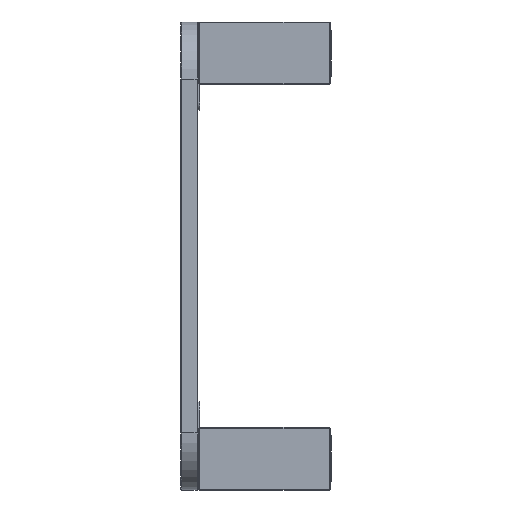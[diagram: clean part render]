
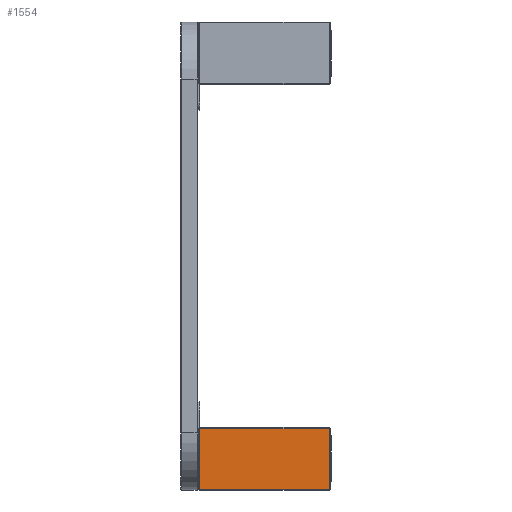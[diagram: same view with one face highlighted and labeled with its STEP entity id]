
A CAD part, left-side view. The second image highlights one B-rep face of the part: STEP entity #1554.
In plain terms, the highlighted planar face has unit normal (-1, 0, 0) as drawn and (0, 0, -1) by its records, which use the part's own axes.
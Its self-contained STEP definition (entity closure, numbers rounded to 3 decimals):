
#144 = LINE ( 'NONE', #5421, #2594 ) ;
#166 = DIRECTION ( 'NONE',  ( 1., 0., 0. ) ) ;
#173 = VERTEX_POINT ( 'NONE', #2601 ) ;
#224 = DIRECTION ( 'NONE',  ( 0., 1., 0. ) ) ;
#232 = EDGE_CURVE ( 'NONE', #3387, #3724, #371, .T. ) ;
#371 = LINE ( 'NONE', #832, #4705 ) ;
#429 = VERTEX_POINT ( 'NONE', #1470 ) ;
#557 = LINE ( 'NONE', #1939, #4809 ) ;
#645 = ORIENTED_EDGE ( 'NONE', *, *, #232, .T. ) ;
#647 = CARTESIAN_POINT ( 'NONE',  ( -55., 230., -55. ) ) ;
#666 = DIRECTION ( 'NONE',  ( -1., 0., 0. ) ) ;
#832 = CARTESIAN_POINT ( 'NONE',  ( 53.5, 230., -55. ) ) ;
#847 = CARTESIAN_POINT ( 'NONE',  ( 53.5, 1.5, -55. ) ) ;
#1079 = DIRECTION ( 'NONE',  ( 0., 0., 1. ) ) ;
#1419 = FACE_OUTER_BOUND ( 'NONE', #1953, .T. ) ;
#1470 = CARTESIAN_POINT ( 'NONE',  ( -53.5, 1.5, -55. ) ) ;
#1554 = ADVANCED_FACE ( 'NONE', ( #1419 ), #1937, .F. ) ;
#1593 = VECTOR ( 'NONE', #666, 1000. ) ;
#1822 = CARTESIAN_POINT ( 'NONE',  ( 53.5, 228.5, -55. ) ) ;
#1933 = CARTESIAN_POINT ( 'NONE',  ( -55., 1.5, -55. ) ) ;
#1937 = PLANE ( 'NONE',  #2477 ) ;
#1939 = CARTESIAN_POINT ( 'NONE',  ( -55., 228.5, -55. ) ) ;
#1953 = EDGE_LOOP ( 'NONE', ( #3028, #645, #2423, #2546 ) ) ;
#2423 = ORIENTED_EDGE ( 'NONE', *, *, #5569, .T. ) ;
#2477 = AXIS2_PLACEMENT_3D ( 'NONE', #647, #1079, #5385 ) ;
#2546 = ORIENTED_EDGE ( 'NONE', *, *, #3074, .T. ) ;
#2594 = VECTOR ( 'NONE', #224, 1000. ) ;
#2601 = CARTESIAN_POINT ( 'NONE',  ( -53.5, 228.5, -55. ) ) ;
#3028 = ORIENTED_EDGE ( 'NONE', *, *, #3335, .T. ) ;
#3074 = EDGE_CURVE ( 'NONE', #429, #173, #144, .T. ) ;
#3335 = EDGE_CURVE ( 'NONE', #173, #3387, #557, .T. ) ;
#3387 = VERTEX_POINT ( 'NONE', #1822 ) ;
#3724 = VERTEX_POINT ( 'NONE', #847 ) ;
#4114 = LINE ( 'NONE', #1933, #1593 ) ;
#4705 = VECTOR ( 'NONE', #5624, 1000. ) ;
#4809 = VECTOR ( 'NONE', #166, 1000. ) ;
#5385 = DIRECTION ( 'NONE',  ( 1., 0., 0. ) ) ;
#5421 = CARTESIAN_POINT ( 'NONE',  ( -53.5, 230., -55. ) ) ;
#5569 = EDGE_CURVE ( 'NONE', #3724, #429, #4114, .T. ) ;
#5624 = DIRECTION ( 'NONE',  ( 0., -1., 0. ) ) ;
